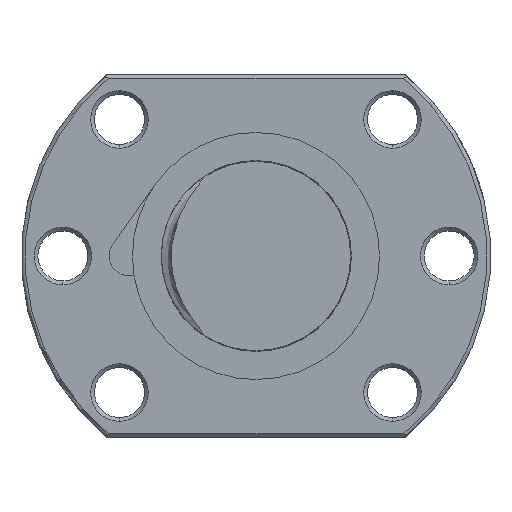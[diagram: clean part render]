
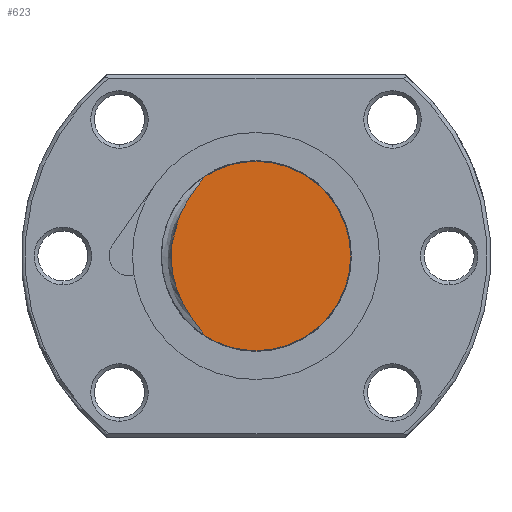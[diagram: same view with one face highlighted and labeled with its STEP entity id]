
A CAD part, left-side view. The second image highlights one B-rep face of the part: STEP entity #623.
In plain terms, the highlighted planar face has unit normal (-1, 0, 0).
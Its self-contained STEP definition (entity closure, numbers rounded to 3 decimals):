
#88 = VERTEX_POINT ( 'NONE', #9089 ) ;
#89 = VERTEX_POINT ( 'NONE', #9088 ) ;
#93 = EDGE_CURVE ( 'NONE', #88, #89, #9162, .T. ) ;
#117 = VERTEX_POINT ( 'NONE', #928 ) ;
#363 = EDGE_CURVE ( 'NONE', #89, #550, #9548, .T. ) ;
#457 = EDGE_CURVE ( 'NONE', #550, #117, #10050, .T. ) ;
#550 = VERTEX_POINT ( 'NONE', #10418 ) ;
#593 = ORIENTED_EDGE ( 'NONE', *, *, #363, .F. ) ;
#622 = ORIENTED_EDGE ( 'NONE', *, *, #625, .T. ) ;
#623 = ADVANCED_FACE ( 'NONE', ( #10705 ), #10700, .F. ) ;
#624 = ORIENTED_EDGE ( 'NONE', *, *, #93, .F. ) ;
#625 = EDGE_CURVE ( 'NONE', #88, #117, #10767, .T. ) ;
#628 = ORIENTED_EDGE ( 'NONE', *, *, #457, .F. ) ;
#928 = CARTESIAN_POINT ( 'NONE',  ( -100., 6.887, -10.432 ) ) ;
#5732 = EDGE_LOOP ( 'NONE', ( #624, #622, #628, #593 ) ) ;
#9088 = CARTESIAN_POINT ( 'NONE',  ( -100., 0., 12.5 ) ) ;
#9089 = CARTESIAN_POINT ( 'NONE',  ( -100., 6.887, 10.432 ) ) ;
#9138 = CARTESIAN_POINT ( 'NONE',  ( -100., 0., 0. ) ) ;
#9159 = DIRECTION ( 'NONE',  ( 0., 1., 0. ) ) ;
#9160 = DIRECTION ( 'NONE',  ( 1., 0., 0. ) ) ;
#9161 = AXIS2_PLACEMENT_3D ( 'NONE', #9138, #9160, #9159 ) ;
#9162 = CIRCLE ( 'NONE', #9161, 12.5 ) ;
#9545 = DIRECTION ( 'NONE',  ( 0., 1., 0. ) ) ;
#9546 = DIRECTION ( 'NONE',  ( 1., 0., 0. ) ) ;
#9547 = AXIS2_PLACEMENT_3D ( 'NONE', #9553, #9546, #9545 ) ;
#9548 = CIRCLE ( 'NONE', #9547, 12.5 ) ;
#9553 = CARTESIAN_POINT ( 'NONE',  ( -100., 0., 0. ) ) ;
#10046 = DIRECTION ( 'NONE',  ( 0., 1., 0. ) ) ;
#10047 = DIRECTION ( 'NONE',  ( 1., 0., 0. ) ) ;
#10048 = CARTESIAN_POINT ( 'NONE',  ( -100., 0., 0. ) ) ;
#10049 = AXIS2_PLACEMENT_3D ( 'NONE', #10048, #10047, #10046 ) ;
#10050 = CIRCLE ( 'NONE', #10049, 12.5 ) ;
#10418 = CARTESIAN_POINT ( 'NONE',  ( -100., 0., -12.5 ) ) ;
#10696 = DIRECTION ( 'NONE',  ( 0., 0., -1. ) ) ;
#10697 = DIRECTION ( 'NONE',  ( 1., 0., 0. ) ) ;
#10698 = CARTESIAN_POINT ( 'NONE',  ( -100., 0., 0. ) ) ;
#10699 = AXIS2_PLACEMENT_3D ( 'NONE', #10698, #10697, #10696 ) ;
#10700 = PLANE ( 'NONE',  #10699 ) ;
#10705 = FACE_OUTER_BOUND ( 'NONE', #5732, .T. ) ;
#10731 = CARTESIAN_POINT ( 'NONE',  ( -100., 6.887, -10.432 ) ) ;
#10732 = CARTESIAN_POINT ( 'NONE',  ( -100., 6.934, -10.321 ) ) ;
#10733 = CARTESIAN_POINT ( 'NONE',  ( -100., 6.996, -10.216 ) ) ;
#10734 = CARTESIAN_POINT ( 'NONE',  ( -100., 7.124, -10.013 ) ) ;
#10735 = CARTESIAN_POINT ( 'NONE',  ( -100., 7.193, -9.915 ) ) ;
#10736 = CARTESIAN_POINT ( 'NONE',  ( -100., 7.402, -9.621 ) ) ;
#10737 = CARTESIAN_POINT ( 'NONE',  ( -100., 7.548, -9.43 ) ) ;
#10738 = CARTESIAN_POINT ( 'NONE',  ( -100., 7.982, -8.854 ) ) ;
#10739 = CARTESIAN_POINT ( 'NONE',  ( -100., 8.27, -8.469 ) ) ;
#10740 = CARTESIAN_POINT ( 'NONE',  ( -100., 9.086, -7.287 ) ) ;
#10741 = CARTESIAN_POINT ( 'NONE',  ( -100., 9.571, -6.464 ) ) ;
#10742 = CARTESIAN_POINT ( 'NONE',  ( -100., 10.172, -5.155 ) ) ;
#10743 = CARTESIAN_POINT ( 'NONE',  ( -100., 10.352, -4.703 ) ) ;
#10744 = CARTESIAN_POINT ( 'NONE',  ( -100., 10.662, -3.788 ) ) ;
#10745 = CARTESIAN_POINT ( 'NONE',  ( -100., 10.791, -3.326 ) ) ;
#10746 = CARTESIAN_POINT ( 'NONE',  ( -100., 10.999, -2.392 ) ) ;
#10747 = CARTESIAN_POINT ( 'NONE',  ( -100., 11.079, -1.92 ) ) ;
#10748 = CARTESIAN_POINT ( 'NONE',  ( -100., 11.185, -0.966 ) ) ;
#10749 = CARTESIAN_POINT ( 'NONE',  ( -100., 11.213, -0.481 ) ) ;
#10750 = CARTESIAN_POINT ( 'NONE',  ( -100., 11.212, 0.969 ) ) ;
#10751 = CARTESIAN_POINT ( 'NONE',  ( -100., 11.104, 1.917 ) ) ;
#10752 = CARTESIAN_POINT ( 'NONE',  ( -100., 10.795, 3.313 ) ) ;
#10753 = CARTESIAN_POINT ( 'NONE',  ( -100., 10.666, 3.774 ) ) ;
#10754 = CARTESIAN_POINT ( 'NONE',  ( -100., 10.358, 4.687 ) ) ;
#10755 = CARTESIAN_POINT ( 'NONE',  ( -100., 10.178, 5.14 ) ) ;
#10756 = CARTESIAN_POINT ( 'NONE',  ( -100., 9.578, 6.451 ) ) ;
#10757 = CARTESIAN_POINT ( 'NONE',  ( -100., 9.093, 7.277 ) ) ;
#10758 = CARTESIAN_POINT ( 'NONE',  ( -100., 8.275, 8.463 ) ) ;
#10759 = CARTESIAN_POINT ( 'NONE',  ( -100., 7.986, 8.849 ) ) ;
#10760 = CARTESIAN_POINT ( 'NONE',  ( -100., 7.55, 9.427 ) ) ;
#10761 = CARTESIAN_POINT ( 'NONE',  ( -100., 7.404, 9.619 ) ) ;
#10762 = CARTESIAN_POINT ( 'NONE',  ( -100., 7.194, 9.913 ) ) ;
#10763 = CARTESIAN_POINT ( 'NONE',  ( -100., 7.125, 10.012 ) ) ;
#10764 = CARTESIAN_POINT ( 'NONE',  ( -100., 6.996, 10.216 ) ) ;
#10765 = CARTESIAN_POINT ( 'NONE',  ( -100., 6.934, 10.321 ) ) ;
#10766 = CARTESIAN_POINT ( 'NONE',  ( -100., 6.887, 10.432 ) ) ;
#10767 = B_SPLINE_CURVE_WITH_KNOTS ( 'NONE', 3,
 ( #10766, #10765, #10764, #10763, #10762, #10761, #10760, #10759, #10758, #10757, #10756, #10755, #10754, #10753, #10752, #10751, #10750, #10749, #10748, #10747, #10746, #10745, #10744, #10743, #10742, #10741, #10740, #10739, #10738, #10737, #10736, #10735, #10734, #10733, #10732, #10731 ),
 .UNSPECIFIED., .F., .F.,
 ( 4, 2, 2, 2, 2, 2, 2, 2, 2, 2, 2, 2, 2, 2, 2, 2, 2, 4 ),
 ( 0.008, 0.008, 0.009, 0.009, 0.011, 0.014, 0.015, 0.017, 0.019, 0.021, 0.022, 0.024, 0.025, 0.028, 0.03, 0.03, 0.031, 0.031 ),
 .UNSPECIFIED. ) ;
